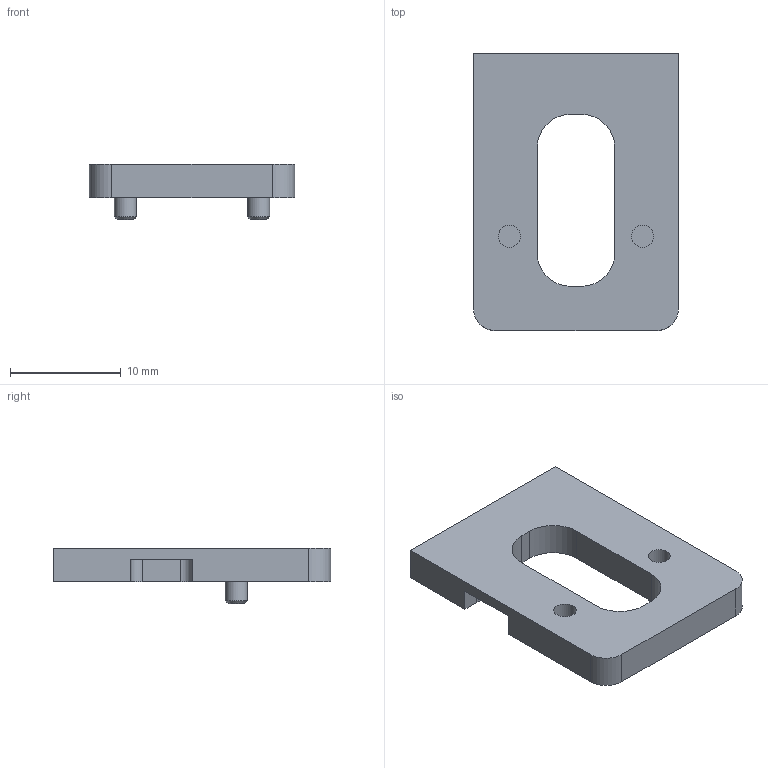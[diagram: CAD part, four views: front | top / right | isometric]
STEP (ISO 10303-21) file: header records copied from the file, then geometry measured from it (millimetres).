
FILE_DESCRIPTION((''),'2;1');
FILE_NAME('E:\catalogue and flyer\Profile catalogue 2015\Accessories ACC info\Accessories ACC step file 31Mar16\ACC-MB94100.stp','2016-04-07T15:10:53',('h029'),(''),'Autodesk Inventor 11','Autodesk Inventor 11','');
FILE_SCHEMA(('AUTOMOTIVE_DESIGN { 1 0 10303 214 1 1 1 1 }'));
Length unit declared in the file: millimetre
Products named in the file (1): Spacer
Bounding box: 18.5 x 25 x 5 mm (x, y, z)
Volume: 1023.2 mm3; surface area: 1166.5 mm2
Topology: 1 solids, 1 shells, 38 faces, 94 edges, 62 vertices
Faces by surface type: plane 20, cylinder 12, bspline 4, cone 2
Full cylindrical faces by diameter (mm): 2 x2
Entity records: 1155 total; most frequent: CARTESIAN_POINT 229, DIRECTION 188, ORIENTED_EDGE 176, EDGE_CURVE 88, AXIS2_PLACEMENT_3D 65, VERTEX_POINT 62, VECTOR 58, LINE 58
